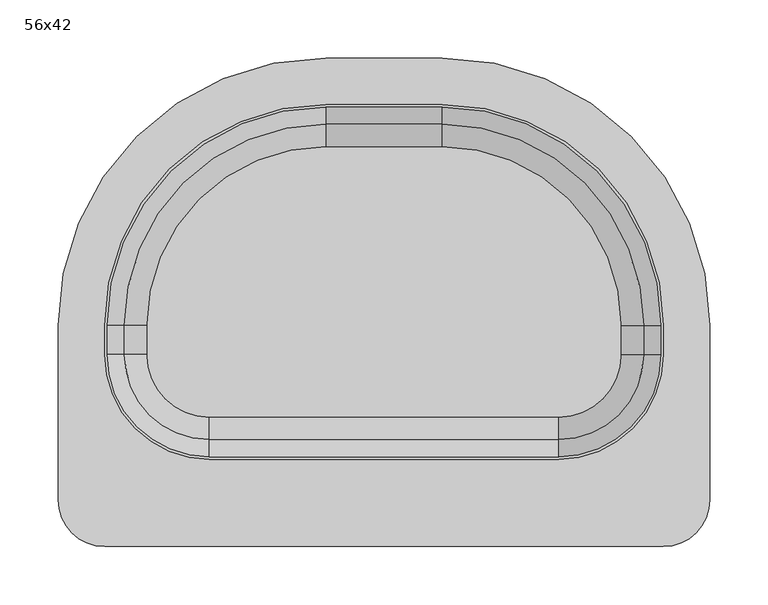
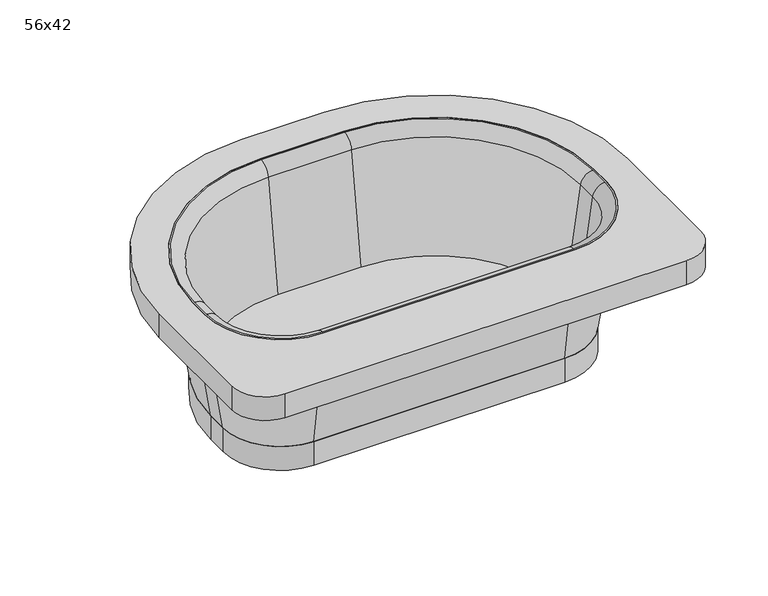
"""IFC4 building model written with IfcOpenShell, lengths in millimetres: flow terminal geometry, Sanitær Servant Løs : 56x42."""

from ifc_helpers import new_model, si_unit, point, frame, frame_2d, origin, place, context, project, spatial, polyline, circle_curve, ellipse_curve, trimmed, segment, composite_curve, outline, extrude, source, transform, mapped, element, save
from ifc_brep_helpers import plane_surface, cylinder_surface, revolved_surface, advanced_brep


def flow_terminal_56x42_ddd7e4ea(model_context):
    return source(origin(), model_context, "Body", "SolidModel", [
        extrude(outline(composite_curve([segment(trimmed(circle_curve(frame_2d((165.2894113, 240.0)), 168.9188748), [point((165.2894113, 408.9188748))], [point((334.208286, 240.0))], False, "CARTESIAN"), True, "CONTINUOUS"), segment(polyline([(334.208286, 240.0), (334.208286, 215.0)]), True, "CONTINUOUS"), segment(trimmed(circle_curve(frame_2d((265.2894113, 215.0)), 68.9188748), [point((334.208286, 215.0))], [point((265.2894113, 146.0811252))], False, "CARTESIAN"), True, "CONTINUOUS"), segment(polyline([(265.2894113, 146.0811252), (-34.7105887, 146.0811252)]), True, "CONTINUOUS"), segment(trimmed(circle_curve(frame_2d((-34.7105887, 215.0)), 68.9188748), [point((-34.7105887, 146.0811252))], [point((-103.6294635, 215.0))], False, "CARTESIAN"), True, "CONTINUOUS"), segment(polyline([(-103.6294635, 215.0), (-103.6294635, 240.0)]), True, "CONTINUOUS"), segment(trimmed(circle_curve(frame_2d((65.2894113, 240.0)), 168.9188748), [point((-103.6294635, 240.0))], [point((65.2894113, 408.9188748))], False, "CARTESIAN"), True, "CONTINUOUS"), segment(polyline([(65.2894113, 408.9188748), (165.2894113, 408.9188748)]), True, "CONTINUOUS")], self_intersect=False)), frame((0.0, 0.0, 720.0), z_axis=(0.0, 0.0, 1.0), x_axis=(1.0, 0.0, 0.0)), (0.0, 0.0, 1.0), 30.0),
        extrude(outline(composite_curve([segment(trimmed(circle_curve(frame_2d((65.2894113, 240.0)), 230.0), [point((-164.7105887, 240.0))], [point((65.2894113, 470.0))], False, "CARTESIAN"), True, "CONTINUOUS"), segment(polyline([(65.2894113, 470.0), (165.2894113, 470.0)]), True, "CONTINUOUS"), segment(trimmed(circle_curve(frame_2d((165.2894113, 240.0)), 230.0), [point((165.2894113, 470.0))], [point((395.2894113, 240.0))], False, "CARTESIAN"), True, "CONTINUOUS"), segment(polyline([(395.2894113, 240.0), (395.2894113, 90.0)]), True, "CONTINUOUS"), segment(trimmed(circle_curve(frame_2d((355.2894113, 90.0)), 40.0), [point((395.2894113, 90.0))], [point((355.2894113, 50.0))], False, "CARTESIAN"), True, "CONTINUOUS"), segment(polyline([(355.2894113, 50.0), (-124.7105887, 50.0)]), True, "CONTINUOUS"), segment(trimmed(circle_curve(frame_2d((-124.7105887, 90.0)), 40.0), [point((-124.7105887, 50.0))], [point((-164.7105887, 90.0))], False, "CARTESIAN"), True, "CONTINUOUS"), segment(polyline([(-164.7105887, 90.0), (-164.7105887, 240.0)]), True, "CONTINUOUS")], self_intersect=False), holes=[composite_curve([segment(trimmed(circle_curve(frame_2d((65.2894113, 240.0)), 190.0), [point((65.2894113, 430.0))], [point((-124.7105887, 240.0))], True, "CARTESIAN"), True, "CONTINUOUS"), segment(polyline([(-124.7105887, 240.0), (-124.7105887, 215.0)]), True, "CONTINUOUS"), segment(trimmed(circle_curve(frame_2d((-34.7105887, 215.0)), 90.0), [point((-124.7105887, 215.0))], [point((-34.7105887, 125.0))], True, "CARTESIAN"), True, "CONTINUOUS"), segment(polyline([(-34.7105887, 125.0), (265.2894113, 125.0)]), True, "CONTINUOUS"), segment(trimmed(circle_curve(frame_2d((265.2894113, 215.0)), 90.0), [point((265.2894113, 125.0))], [point((355.2894113, 215.0))], True, "CARTESIAN"), True, "CONTINUOUS"), segment(polyline([(355.2894113, 215.0), (355.2894113, 240.0)]), True, "CONTINUOUS"), segment(trimmed(circle_curve(frame_2d((165.2894113, 240.0)), 190.0), [point((355.2894113, 240.0))], [point((165.2894113, 430.0))], True, "CARTESIAN"), True, "CONTINUOUS"), segment(polyline([(165.2894113, 430.0), (65.2894113, 430.0)]), True, "CONTINUOUS")], self_intersect=False)]), frame((0.0, 0.0, 870.0), z_axis=(0.0, 0.0, 1.0), x_axis=(1.0, 0.0, 0.0)), (0.0, 0.0, 1.0), 30.0),
        advanced_brep(
        [(338.3272777, 240.0, 887.0875965), (165.2894113, 413.0378664, 887.0875965), (165.2894113, 393.7714612, 750.0), (319.0608725, 240.0, 750.0), (353.1812987, 240.0, 900.0), (165.2894113, 427.8918875, 900.0), (355.2894113, 240.0, 885.0), (165.2894113, 430.0, 885.0), (165.2894113, 430.0, 900.0), (355.2894113, 240.0, 900.0), (334.208286, 240.0, 750.0), (165.2894113, 408.9188748, 750.0), (319.0608725, 215.0, 750.0), (338.3272777, 215.0, 887.0875965), (353.1812987, 215.0, 900.0), (355.2894113, 215.0, 900.0), (355.2894113, 215.0, 885.0), (334.208286, 215.0, 750.0), (265.2894113, 141.9621336, 887.0875965), (265.2894113, 161.2285388, 750.0), (265.2894113, 127.1081125, 900.0), (265.2894113, 125.0, 885.0), (265.2894113, 125.0, 900.0), (265.2894113, 146.0811252, 750.0), (-34.7105887, 161.2285388, 750.0), (-34.7105887, 141.9621336, 887.0875965), (-34.7105887, 127.1081125, 900.0), (-34.7105887, 125.0, 900.0), (-34.7105887, 125.0, 885.0), (-34.7105887, 146.0811252, 750.0), (-107.7484552, 215.0, 887.0875965), (-88.48205, 215.0, 750.0), (-122.6024762, 215.0, 900.0), (-124.7105887, 215.0, 885.0), (-124.7105887, 215.0, 900.0), (-103.6294635, 215.0, 750.0), (-88.48205, 240.0, 750.0), (-107.7484552, 240.0, 887.0875965), (-122.6024762, 240.0, 900.0), (-124.7105887, 240.0, 900.0), (-124.7105887, 240.0, 885.0), (-103.6294635, 240.0, 750.0), (65.2894113, 413.0378664, 887.0875965), (65.2894113, 393.7714612, 750.0), (65.2894113, 427.8918875, 900.0), (65.2894113, 430.0, 885.0), (65.2894113, 430.0, 900.0), (65.2894113, 408.9188748, 750.0)],
        [
            (0, 1, circle_curve(frame((165.2894113, 240.0, 887.0875965), z_axis=(0.0, 0.0, 1.0), x_axis=(0.0, 1.0, 0.0)), 173.0378664)),
            (1, 2),
            (2, 3, circle_curve(frame((165.2894113, 240.0, 750.0), z_axis=(0.0, 0.0, -1.0), x_axis=(0.0, 1.0, 0.0)), 153.7714612)),
            (3, 0),
            (4, 5, circle_curve(frame((165.2894113, 240.0, 900.0), z_axis=(0.0, 0.0, 1.0), x_axis=(0.0, 1.0, 0.0)), 187.8918875)),
            (5, 1, circle_curve(frame((165.2894113, 427.8918875, 885.0), z_axis=(1.0, 0.0, 0.0), x_axis=(0.0, -1.0, 0.0)), 15.0)),
            (0, 4, circle_curve(frame((353.1812987, 240.0, 885.0), z_axis=(0.0, 1.0, 0.0), x_axis=(-1.0, 0.0, 0.0)), 15.0)),
            (6, 7, circle_curve(frame((165.2894113, 240.0, 885.0), z_axis=(0.0, 0.0, 1.0), x_axis=(0.0, 1.0, 0.0)), 190.0)),
            (7, 8),
            (8, 9, circle_curve(frame((165.2894113, 240.0, 900.0), z_axis=(0.0, 0.0, -1.0), x_axis=(0.0, 1.0, 0.0)), 190.0)),
            (9, 6),
            (10, 11, circle_curve(frame((165.2894113, 240.0, 750.0), z_axis=(0.0, 0.0, 1.0), x_axis=(0.0, 1.0, 0.0)), 168.9188748)),
            (11, 7),
            (6, 10),
            (3, 12),
            (12, 13),
            (13, 0),
            (13, 14, circle_curve(frame((353.1812987, 215.0, 885.0), z_axis=(0.0, 1.0, 0.0), x_axis=(-1.0, 0.0, 0.0)), 15.0)),
            (14, 4),
            (9, 15),
            (15, 16),
            (16, 6),
            (16, 17),
            (17, 10),
            (18, 13, circle_curve(frame((265.2894113, 215.0, 887.0875965), z_axis=(0.0, 0.0, 1.0), x_axis=(1.0, 0.0, 0.0)), 73.0378664)),
            (12, 19, circle_curve(frame((265.2894113, 215.0, 750.0), z_axis=(0.0, 0.0, -1.0), x_axis=(1.0, 0.0, 0.0)), 53.7714612)),
            (19, 18),
            (20, 14, circle_curve(frame((265.2894113, 215.0, 900.0), z_axis=(0.0, 0.0, 1.0), x_axis=(1.0, 0.0, 0.0)), 87.8918875)),
            (18, 20, circle_curve(frame((265.2894113, 127.1081125, 885.0), z_axis=(1.0, 0.0, 0.0), x_axis=(0.0, 1.0, 0.0)), 15.0)),
            (21, 16, circle_curve(frame((265.2894113, 215.0, 885.0), z_axis=(0.0, 0.0, 1.0), x_axis=(1.0, 0.0, 0.0)), 90.0)),
            (15, 22, circle_curve(frame((265.2894113, 215.0, 900.0), z_axis=(0.0, 0.0, -1.0), x_axis=(1.0, 0.0, 0.0)), 90.0)),
            (22, 21),
            (23, 17, circle_curve(frame((265.2894113, 215.0, 750.0), z_axis=(0.0, 0.0, 1.0), x_axis=(1.0, 0.0, 0.0)), 68.9188748)),
            (21, 23),
            (19, 24),
            (24, 25),
            (25, 18),
            (25, 26, circle_curve(frame((-34.7105887, 127.1081125, 885.0), z_axis=(1.0, 0.0, 0.0), x_axis=(0.0, 1.0, 0.0)), 15.0)),
            (26, 20),
            (22, 27),
            (27, 28),
            (28, 21),
            (28, 29),
            (29, 23),
            (30, 25, circle_curve(frame((-34.7105887, 215.0, 887.0875965), z_axis=(0.0, 0.0, 1.0), x_axis=(0.0, -1.0, 0.0)), 73.0378664)),
            (24, 31, circle_curve(frame((-34.7105887, 215.0, 750.0), z_axis=(0.0, 0.0, -1.0), x_axis=(0.0, -1.0, 0.0)), 53.7714612)),
            (31, 30),
            (32, 26, circle_curve(frame((-34.7105887, 215.0, 900.0), z_axis=(0.0, 0.0, 1.0), x_axis=(0.0, -1.0, 0.0)), 87.8918875)),
            (30, 32, circle_curve(frame((-122.6024762, 215.0, 885.0), z_axis=(0.0, -1.0, 0.0), x_axis=(1.0, 0.0, 0.0)), 15.0)),
            (33, 28, circle_curve(frame((-34.7105887, 215.0, 885.0), z_axis=(0.0, 0.0, 1.0), x_axis=(0.0, -1.0, 0.0)), 90.0)),
            (27, 34, circle_curve(frame((-34.7105887, 215.0, 900.0), z_axis=(0.0, 0.0, -1.0), x_axis=(0.0, -1.0, 0.0)), 90.0)),
            (34, 33),
            (35, 29, circle_curve(frame((-34.7105887, 215.0, 750.0), z_axis=(0.0, 0.0, 1.0), x_axis=(0.0, -1.0, 0.0)), 68.9188748)),
            (33, 35),
            (31, 36),
            (36, 37),
            (37, 30),
            (37, 38, circle_curve(frame((-122.6024762, 240.0, 885.0), z_axis=(0.0, -1.0, 0.0), x_axis=(1.0, 0.0, 0.0)), 15.0)),
            (38, 32),
            (34, 39),
            (39, 40),
            (40, 33),
            (40, 41),
            (41, 35),
            (42, 37, circle_curve(frame((65.2894113, 240.0, 887.0875965), z_axis=(0.0, 0.0, 1.0), x_axis=(-1.0, 0.0, 0.0)), 173.0378664)),
            (36, 43, circle_curve(frame((65.2894113, 240.0, 750.0), z_axis=(0.0, 0.0, -1.0), x_axis=(-1.0, 0.0, 0.0)), 153.7714612)),
            (43, 42),
            (44, 38, circle_curve(frame((65.2894113, 240.0, 900.0), z_axis=(0.0, 0.0, 1.0), x_axis=(-1.0, 0.0, 0.0)), 187.8918875)),
            (42, 44, circle_curve(frame((65.2894113, 427.8918875, 885.0), z_axis=(-1.0, 0.0, 0.0), x_axis=(0.0, -1.0, 0.0)), 15.0)),
            (45, 40, circle_curve(frame((65.2894113, 240.0, 885.0), z_axis=(0.0, 0.0, 1.0), x_axis=(-1.0, 0.0, 0.0)), 190.0)),
            (39, 46, circle_curve(frame((65.2894113, 240.0, 900.0), z_axis=(0.0, 0.0, -1.0), x_axis=(-1.0, 0.0, 0.0)), 190.0)),
            (46, 45),
            (47, 41, circle_curve(frame((65.2894113, 240.0, 750.0), z_axis=(0.0, 0.0, 1.0), x_axis=(-1.0, 0.0, 0.0)), 168.9188748)),
            (45, 47),
            (47, 11),
            (2, 43),
            (1, 42),
            (5, 44),
            (8, 46),
            (7, 45),
        ],
        [
            revolved_surface(polyline([(165.2894113, 393.7714612, 750.0), (165.2894113, 413.0378664, 887.0875965)]), (165.2894113, 240.0, 0.0), (0.0, 0.0, -1.0)),
            revolved_surface(trimmed(ellipse_curve(frame((165.2894113, 427.8918875, 885.0), z_axis=(-1.0, 0.0, 0.0), x_axis=(0.0, -1.0, 0.0)), 15.0, 15.0), [point((165.2894113, 413.0378664, 887.0875965))], [point((165.2894113, 427.8918875, 900.0))], True, "CARTESIAN"), (165.2894113, 240.0, 0.0), (0.0, 0.0, -1.0)),
            cylinder_surface(frame((165.2894113, 240.0, 0.0), z_axis=(0.0, 0.0, -1.0), x_axis=(0.0, 1.0, 0.0)), 190.0),
            revolved_surface(polyline([(165.2894113, 430.0, 885.0), (165.2894113, 408.9188748, 750.0)]), (165.2894113, 240.0, 0.0), (0.0, 0.0, -1.0)),
            plane_surface(frame((319.0608725, 240.0, 750.0), z_axis=(-0.9902680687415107, 0.0, 0.13917310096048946), x_axis=(0.0, -1.0, 0.0))),
            cylinder_surface(frame((353.1812987, 240.0, 885.0), z_axis=(0.0, 1.0, 0.0), x_axis=(-1.0, 0.0, 0.0)), 15.0),
            plane_surface(frame((355.2894113, 240.0, 900.0), z_axis=(1.0, 0.0, 0.0), x_axis=(0.0, -1.0, 0.0))),
            plane_surface(frame((355.2894113, 240.0, 885.0), z_axis=(0.9880261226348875, 0.0, -0.15428668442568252), x_axis=(0.0, -1.0, 0.0))),
            revolved_surface(polyline([(319.0608725, 215.0, 750.0), (338.3272777, 215.0, 887.0875965)]), (265.2894113, 215.0, 0.0), (0.0, 0.0, -1.0)),
            revolved_surface(trimmed(ellipse_curve(frame((353.1812987, 215.0, 885.0), z_axis=(0.0, 1.0, 0.0), x_axis=(-1.0, 0.0, 0.0)), 15.0, 15.0), [point((338.3272777, 215.0, 887.0875965))], [point((353.1812987, 215.0, 900.0))], True, "CARTESIAN"), (265.2894113, 215.0, 0.0), (0.0, 0.0, -1.0)),
            cylinder_surface(frame((265.2894113, 215.0, 0.0), z_axis=(0.0, 0.0, -1.0), x_axis=(1.0, 0.0, 0.0)), 90.0),
            revolved_surface(polyline([(355.2894113, 215.0, 885.0), (334.208286, 215.0, 750.0)]), (265.2894113, 215.0, 0.0), (0.0, 0.0, -1.0)),
            plane_surface(frame((265.2894113, 161.2285388, 750.0), z_axis=(0.0, 0.9902680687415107, 0.13917310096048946), x_axis=(-1.0, 0.0, 0.0))),
            cylinder_surface(frame((265.2894113, 127.1081125, 885.0), z_axis=(1.0, 0.0, 0.0), x_axis=(0.0, 1.0, 0.0)), 15.0),
            plane_surface(frame((265.2894113, 125.0, 900.0), z_axis=(0.0, -1.0, 0.0), x_axis=(-1.0, 0.0, 0.0))),
            plane_surface(frame((265.2894113, 125.0, 885.0), z_axis=(0.0, -0.9880261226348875, -0.15428668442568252), x_axis=(-1.0, 0.0, 0.0))),
            revolved_surface(polyline([(-34.7105887, 161.2285388, 750.0), (-34.7105887, 141.9621336, 887.0875965)]), (-34.7105887, 215.0, 0.0), (0.0, 0.0, -1.0)),
            revolved_surface(trimmed(ellipse_curve(frame((-34.7105887, 127.1081125, 885.0), z_axis=(1.0, 0.0, 0.0), x_axis=(0.0, 1.0, 0.0)), 15.0, 15.0), [point((-34.7105887, 141.9621336, 887.0875965))], [point((-34.7105887, 127.1081125, 900.0))], True, "CARTESIAN"), (-34.7105887, 215.0, 0.0), (0.0, 0.0, -1.0)),
            cylinder_surface(frame((-34.7105887, 215.0, 0.0), z_axis=(0.0, 0.0, -1.0), x_axis=(0.0, -1.0, 0.0)), 90.0),
            revolved_surface(polyline([(-34.7105887, 125.0, 885.0), (-34.7105887, 146.0811252, 750.0)]), (-34.7105887, 215.0, 0.0), (0.0, 0.0, -1.0)),
            plane_surface(frame((-88.48205, 215.0, 750.0), z_axis=(0.9902680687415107, 0.0, 0.13917310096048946), x_axis=(0.0, 1.0, 0.0))),
            cylinder_surface(frame((-122.6024762, 215.0, 885.0), z_axis=(0.0, -1.0, 0.0), x_axis=(1.0, 0.0, 0.0)), 15.0),
            plane_surface(frame((-124.7105887, 215.0, 900.0), z_axis=(-1.0, 0.0, 0.0), x_axis=(0.0, 1.0, 0.0))),
            plane_surface(frame((-124.7105887, 215.0, 885.0), z_axis=(-0.9880261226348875, 0.0, -0.15428668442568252), x_axis=(0.0, 1.0, 0.0))),
            revolved_surface(polyline([(-88.48205, 240.0, 750.0), (-107.7484552, 240.0, 887.0875965)]), (65.2894113, 240.0, 0.0), (0.0, 0.0, -1.0)),
            revolved_surface(trimmed(ellipse_curve(frame((-122.6024762, 240.0, 885.0), z_axis=(0.0, -1.0, 0.0), x_axis=(1.0, 0.0, 0.0)), 15.0, 15.0), [point((-107.7484552, 240.0, 887.0875965))], [point((-122.6024762, 240.0, 900.0))], True, "CARTESIAN"), (65.2894113, 240.0, 0.0), (0.0, 0.0, -1.0)),
            cylinder_surface(frame((65.2894113, 240.0, 0.0), z_axis=(0.0, 0.0, -1.0), x_axis=(-1.0, 0.0, 0.0)), 190.0),
            revolved_surface(polyline([(-124.7105887, 240.0, 885.0), (-103.6294635, 240.0, 750.0)]), (65.2894113, 240.0, 0.0), (0.0, 0.0, -1.0)),
            plane_surface(frame((65.2894113, 408.9188748, 750.0), z_axis=(0.0, 0.0, -1.0), x_axis=(1.0, 0.0, 0.0))),
            plane_surface(frame((65.2894113, 393.7714612, 750.0), z_axis=(0.0, -0.9902680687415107, 0.13917310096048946), x_axis=(1.0, 0.0, 0.0))),
            cylinder_surface(frame((65.2894113, 427.8918875, 885.0), z_axis=(-1.0, 0.0, 0.0), x_axis=(0.0, -1.0, 0.0)), 15.0),
            plane_surface(frame((65.2894113, 427.8918875, 900.0), z_axis=(0.0, 0.0, 1.0), x_axis=(1.0, 0.0, 0.0))),
            plane_surface(frame((65.2894113, 430.0, 900.0), z_axis=(0.0, 1.0, 0.0), x_axis=(1.0, 0.0, 0.0))),
            plane_surface(frame((65.2894113, 430.0, 885.0), z_axis=(0.0, 0.9880261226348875, -0.15428668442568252), x_axis=(1.0, 0.0, 0.0))),
        ],
        [
            (0, [[1, 2, 3, 4]]),
            (1, [[5, 6, -1, 7]]),
            (2, [[8, 9, 10, 11]]),
            (3, [[12, 13, -8, 14]]),
            (4, [[-4, 15, 16, 17]]),
            (5, [[-7, -17, 18, 19]]),
            (6, [[-11, 20, 21, 22]]),
            (7, [[-14, -22, 23, 24]]),
            (8, [[25, -16, 26, 27]]),
            (9, [[28, -18, -25, 29]]),
            (10, [[30, -21, 31, 32]]),
            (11, [[33, -23, -30, 34]]),
            (12, [[-27, 35, 36, 37]]),
            (13, [[-29, -37, 38, 39]]),
            (14, [[-32, 40, 41, 42]]),
            (15, [[-34, -42, 43, 44]]),
            (16, [[45, -36, 46, 47]]),
            (17, [[48, -38, -45, 49]]),
            (18, [[50, -41, 51, 52]]),
            (19, [[53, -43, -50, 54]]),
            (20, [[-47, 55, 56, 57]]),
            (21, [[-49, -57, 58, 59]]),
            (22, [[-52, 60, 61, 62]]),
            (23, [[-54, -62, 63, 64]]),
            (24, [[65, -56, 66, 67]]),
            (25, [[68, -58, -65, 69]]),
            (26, [[70, -61, 71, 72]]),
            (27, [[73, -63, -70, 74]]),
            (28, [[-64, -73, 75, -12, -24, -33, -44, -53], [76, -66, -55, -46, -35, -26, -15, -3]]),
            (29, [[-67, -76, -2, 77]]),
            (30, [[-69, -77, -6, 78]]),
            (31, [[79, -71, -60, -51, -40, -31, -20, -10], [-59, -68, -78, -5, -19, -28, -39, -48]]),
            (32, [[-72, -79, -9, 80]]),
            (33, [[-74, -80, -13, -75]]),
        ],
    ),
    ])


if __name__ == "__main__":
    model = new_model("IFC4")
    model_context = context("Model", 3, world=origin())
    ifc_project = project(units=[si_unit("LENGTHUNIT", "METRE", prefix="MILLI")], contexts=[model_context])
    site = spatial("IfcSite", under=ifc_project)
    building = spatial("IfcBuilding", under=site)
    placement = place(None, origin())
    flow_terminal_56x42_shape = flow_terminal_56x42_ddd7e4ea(model_context)
    element("IfcFlowTerminal", 1, ObjectType="Sanitær Servant Løs : 56x42", at=placement, inside=building, context=model_context, shape_type="MappedRepresentation", body=[
        mapped(flow_terminal_56x42_shape, transform((0.0, 0.0, 0.0), x_axis=(1.0, 0.0, 0.0), y_axis=(0.0, 1.0, 0.0), z_axis=(0.0, 0.0, 1.0))),
    ])
    save(model, "model.ifc")
